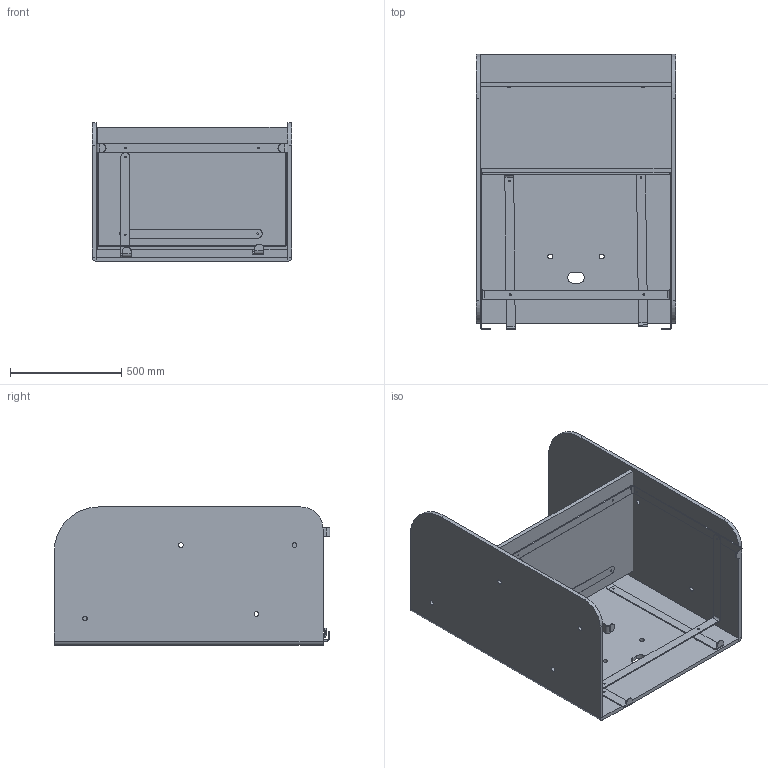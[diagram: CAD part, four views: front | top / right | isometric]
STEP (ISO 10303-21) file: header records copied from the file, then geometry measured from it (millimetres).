
FILE_DESCRIPTION (( 'STEP AP214' ), '1' );
FILE_NAME ('NIK_PUPI_SMALL02.STEP', '2021-11-29T08:46:52', ( '' ), ( '' ), 'SwSTEP 2.0', 'SolidWorks 2019', '' );
FILE_SCHEMA (( 'AUTOMOTIVE_DESIGN' ));
Length unit declared in the file: millimetre
Products named in the file (9): EDE_SUP_02; EDE_SUP_02_02; EDE_SUP_02_01; NIK_PUPI_SMALL02; S; EDE_SUP_03; 864x550; Pieza20^NIK_PUPI_SMALL02; 864x120
Assembly tree (8 placements, depth 2):
  NIK_PUPI_SMALL02
    EDE_SUP_02
    EDE_SUP_02_01
    EDE_SUP_03  x2
    EDE_SUP_02_02
    864x550
    S
    864x120
  Pieza20^NIK_PUPI_SMALL02
Bounding box: 900 x 1240.16 x 621.91 mm (x, y, z)
Volume: 57598639.8 mm3; surface area: 7046358.4 mm2
Topology: 8 solids, 8 shells, 234 faces, 558 edges, 340 vertices
Faces by surface type: plane 114, cylinder 112, bspline 8
Entity records: 6337 total; most frequent: CARTESIAN_POINT 1149, DIRECTION 1050, ORIENTED_EDGE 968, EDGE_CURVE 484, AXIS2_PLACEMENT_3D 397, VERTEX_POINT 296, EDGE_LOOP 268, LINE 256
